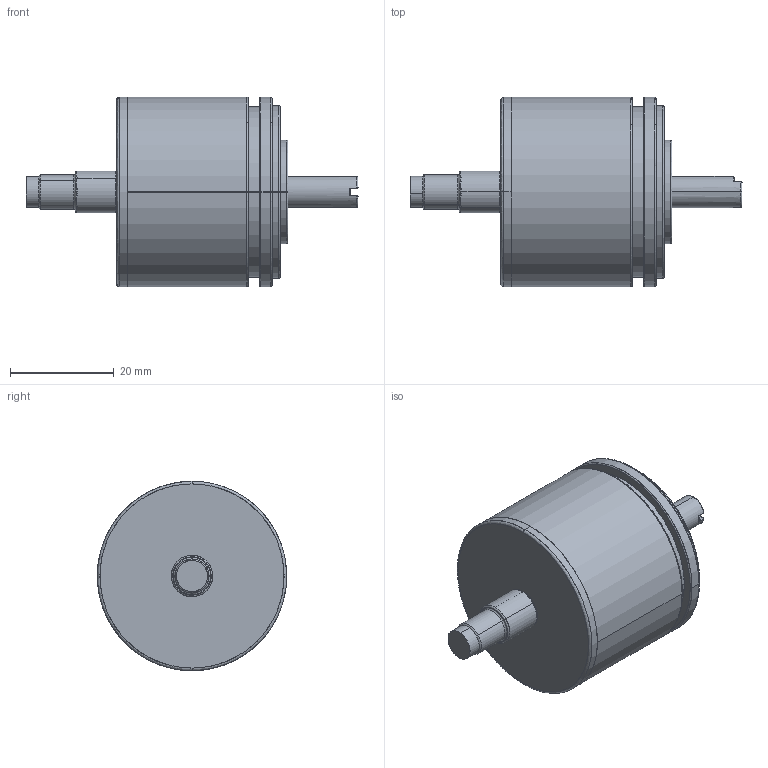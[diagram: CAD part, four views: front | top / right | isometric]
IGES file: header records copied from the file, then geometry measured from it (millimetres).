
Start section: SolidWorks IGES file using analytic representation for surfaces
Global section: file name: O:\08-Produkte_DatBlät&Beiblät&PrLi&Appl&Wettb\8-1 Megatron\8-1-11 Drehgeber\8-1-11-1 Datenblätter\MAB36\3-D-Daten\MAB36_axial.IGS; native system: SolidWorks 2007; preprocessor: SolidWorks 2007; author: AlessandroC; date: 110926.101032; units: millimetre
Bounding box: 64 x 36.5 x 36.5 mm (x, y, z)
Surface area: 7904.1 mm2 (no closed solid volume)
Topology: 0 solids, 0 shells, 118 faces, 1883 edges, 1879 vertices
Faces by surface type: bspline 60, revolution 58
